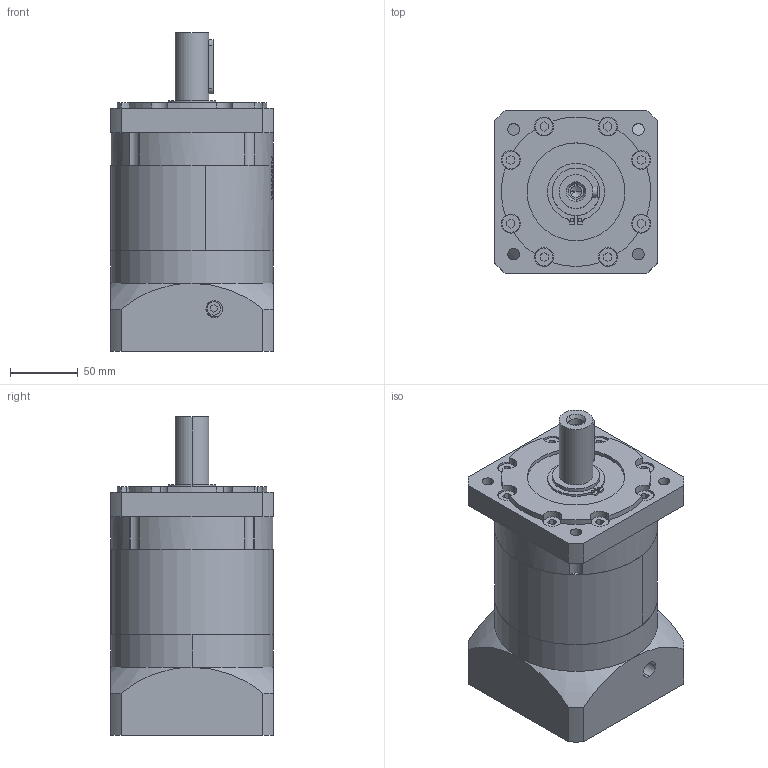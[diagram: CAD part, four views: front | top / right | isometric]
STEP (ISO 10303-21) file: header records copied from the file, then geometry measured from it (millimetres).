
FILE_DESCRIPTION (( 'STEP AP203' ), '1' );
FILE_NAME ('PLF120-L2-19-95-115.STEP', '2022-06-23T02:18:00', ( 'Windows User' ), ( 'P R C' ), 'SwSTEP 2.0', 'SolidWorks 2016', '' );
FILE_SCHEMA (( 'CONFIG_CONTROL_DESIGN' ));
Length unit declared in the file: millimetre
Products named in the file (8): PLF120-L2-19-95-115; 囀鞠褒蹟佪 M6x20; PLF120蟀諉啣-95-M8-115-綠熬10mm; PLF120 內齿圈_二级内齿圈; PLF120 奻屳唳; PLF120狟屳唳-19; 邧埴瑩 8x7x40; 粣創-6007 40x68x15
Assembly tree (7 placements, depth 2):
  PLF120-L2-19-95-115
    囀鞠褒蹟佪 M6x20
    PLF120蟀諉啣-95-M8-115-綠熬10mm
    PLF120 內齿圈_二级内齿圈
    PLF120 奻屳唳
    PLF120狟屳唳-19
    邧埴瑩 8x7x40
    粣創-6007 40x68x15
Bounding box: 120 x 120 x 234.5 mm (x, y, z)
Volume: 2053024.7 mm3; surface area: 251869.2 mm2
Topology: 7 solids, 15 shells, 1132 faces, 3065 edges, 2027 vertices
Faces by surface type: plane 609, cylinder 223, bspline 140, sphere 94, torus 52, cone 14
Entity records: 46413 total; most frequent: CARTESIAN_POINT 17948, ORIENTED_EDGE 6098, DIRECTION 5234, EDGE_CURVE 3049, VERTEX_POINT 2023, AXIS2_PLACEMENT_3D 1859, VECTOR 1516, LINE 1516
